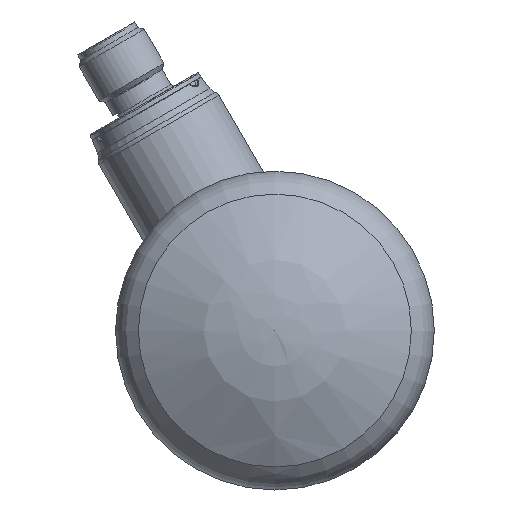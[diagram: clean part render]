
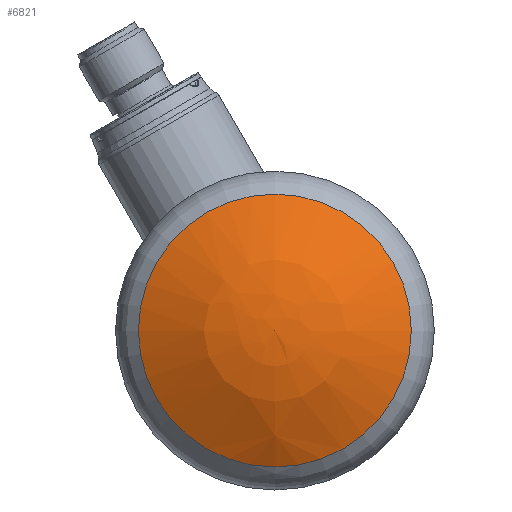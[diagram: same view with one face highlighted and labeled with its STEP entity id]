
A CAD part, front view. The second image highlights one B-rep face of the part: STEP entity #6821.
In plain terms, the highlighted free-form (B-spline) face has degree [2, 2] with [3, 9] control points.
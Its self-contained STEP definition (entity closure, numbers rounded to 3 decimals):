
#197=(
BOUNDED_SURFACE()
B_SPLINE_SURFACE(2,2,((#19479,#19480,#19481,#19482,#19483,#19484,#19485,
#19486,#19487),(#19488,#19489,#19490,#19491,#19492,#19493,#19494,#19495,
#19496),(#19497,#19498,#19499,#19500,#19501,#19502,#19503,#19504,#19505)),
 .UNSPECIFIED.,.F.,.T.,.F.)
B_SPLINE_SURFACE_WITH_KNOTS((3,3),(3,2,2,2,3),(-1.571,-0.996),
(-3.142,-1.571,0.,1.571,3.142),
 .UNSPECIFIED.)
GEOMETRIC_REPRESENTATION_ITEM()
RATIONAL_B_SPLINE_SURFACE(((1.,0.707,1.,0.707,1.,
0.707,1.,0.707,1.),(0.959,0.678,
0.959,0.678,0.959,0.678,
0.959,0.678,0.959),(1.,0.707,
1.,0.707,1.,0.707,1.,0.707,1.)))
REPRESENTATION_ITEM('')
SURFACE()
);
#828=CIRCLE('',#7318,21.743);
#829=CIRCLE('',#7319,40.);
#1204=FACE_OUTER_BOUND('',#1607,.T.);
#1607=EDGE_LOOP('',(#5793,#5794,#5795));
#2989=VERTEX_POINT('',#19506);
#2990=VERTEX_POINT('',#19508);
#3936=EDGE_CURVE('',#2989,#2989,#828,.T.);
#3937=EDGE_CURVE('',#2989,#2990,#829,.T.);
#5793=ORIENTED_EDGE('',*,*,#3936,.F.);
#5794=ORIENTED_EDGE('',*,*,#3937,.T.);
#5795=ORIENTED_EDGE('',*,*,#3937,.F.);
#6821=ADVANCED_FACE('',(#1204),#197,.F.);
#7318=AXIS2_PLACEMENT_3D('',#19507,#8643,#8644);
#7319=AXIS2_PLACEMENT_3D('',#19509,#8645,#8646);
#8643=DIRECTION('center_axis',(0.,1.,0.));
#8644=DIRECTION('ref_axis',(1.,0.,0.));
#8645=DIRECTION('center_axis',(-1.,0.,0.));
#8646=DIRECTION('ref_axis',(0.,0.,-1.));
#19479=CARTESIAN_POINT('Ctrl Pts',(0.,0.,
0.));
#19480=CARTESIAN_POINT('Ctrl Pts',(0.,0.,
0.));
#19481=CARTESIAN_POINT('Ctrl Pts',(0.,0.,
0.));
#19482=CARTESIAN_POINT('Ctrl Pts',(0.,0.,
0.));
#19483=CARTESIAN_POINT('Ctrl Pts',(0.,0.,
0.));
#19484=CARTESIAN_POINT('Ctrl Pts',(0.,0.,
0.));
#19485=CARTESIAN_POINT('Ctrl Pts',(0.,0.,
0.));
#19486=CARTESIAN_POINT('Ctrl Pts',(0.,0.,
0.));
#19487=CARTESIAN_POINT('Ctrl Pts',(0.,0.,
0.));
#19488=CARTESIAN_POINT('Ctrl Pts',(0.,0.002,
-11.822));
#19489=CARTESIAN_POINT('Ctrl Pts',(-11.822,0.002,
-11.822));
#19490=CARTESIAN_POINT('Ctrl Pts',(-11.822,0.002,
0.));
#19491=CARTESIAN_POINT('Ctrl Pts',(-11.822,0.002,
11.822));
#19492=CARTESIAN_POINT('Ctrl Pts',(0.,0.002,
11.822));
#19493=CARTESIAN_POINT('Ctrl Pts',(11.822,0.002,
11.822));
#19494=CARTESIAN_POINT('Ctrl Pts',(11.822,0.002,
0.));
#19495=CARTESIAN_POINT('Ctrl Pts',(11.822,0.002,
-11.822));
#19496=CARTESIAN_POINT('Ctrl Pts',(0.,0.002,
-11.822));
#19497=CARTESIAN_POINT('Ctrl Pts',(0.,6.43,
-21.743));
#19498=CARTESIAN_POINT('Ctrl Pts',(-21.743,6.43,-21.743));
#19499=CARTESIAN_POINT('Ctrl Pts',(-21.743,6.43,0.));
#19500=CARTESIAN_POINT('Ctrl Pts',(-21.743,6.43,21.743));
#19501=CARTESIAN_POINT('Ctrl Pts',(0.,6.43,
21.743));
#19502=CARTESIAN_POINT('Ctrl Pts',(21.743,6.43,21.743));
#19503=CARTESIAN_POINT('Ctrl Pts',(21.743,6.43,0.));
#19504=CARTESIAN_POINT('Ctrl Pts',(21.743,6.43,-21.743));
#19505=CARTESIAN_POINT('Ctrl Pts',(0.,6.43,
-21.743));
#19506=CARTESIAN_POINT('',(0.,6.43,-21.743));
#19507=CARTESIAN_POINT('Origin',(0.,6.43,
0.));
#19508=CARTESIAN_POINT('',(0.,0.,0.));
#19509=CARTESIAN_POINT('Origin',(0.,40.,
0.006));
